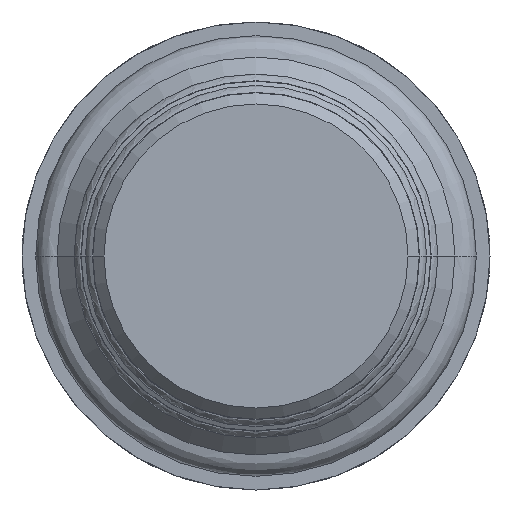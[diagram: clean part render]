
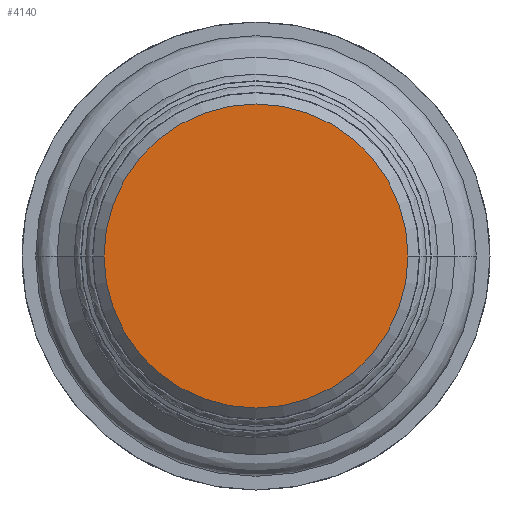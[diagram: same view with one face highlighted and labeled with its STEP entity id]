
A CAD part, front view. The second image highlights one B-rep face of the part: STEP entity #4140.
In plain terms, the highlighted planar face has unit normal (0, -1, 0).
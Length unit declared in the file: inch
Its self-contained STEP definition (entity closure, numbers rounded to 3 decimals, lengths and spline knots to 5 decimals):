
#1166=CARTESIAN_POINT('',(0.,-2.787,0.));
#1167=DIRECTION('',(0.,1.,0.));
#1168=DIRECTION('',(-1.,0.,0.));
#1169=AXIS2_PLACEMENT_3D('',#1166,#1167,#1168);
#1184=CARTESIAN_POINT('',(0.,-2.787,0.));
#1185=DIRECTION('',(0.,-1.,0.));
#1186=DIRECTION('',(-1.,0.,0.));
#1187=AXIS2_PLACEMENT_3D('',#1184,#1185,#1186);
#1955=CARTESIAN_POINT('',(-0.406,-2.787,0.));
#1956=CARTESIAN_POINT('',(0.406,-2.787,0.));
#1957=VERTEX_POINT('',#1955);
#1958=VERTEX_POINT('',#1956);
#4130=CARTESIAN_POINT('',(0.,-2.787,0.));
#4131=DIRECTION('',(0.,1.,0.));
#4132=DIRECTION('',(1.,0.,0.));
#4133=AXIS2_PLACEMENT_3D('',#4130,#4131,#4132);
#4134=PLANE('',#4133);
#4136=ORIENTED_EDGE('',*,*,#4135,.F.);
#4137=ORIENTED_EDGE('',*,*,#4120,.T.);
#4138=EDGE_LOOP('',(#4136,#4137));
#4139=FACE_OUTER_BOUND('',#4138,.F.);
#4140=ADVANCED_FACE('',(#4139),#4134,.F.);
#1170=CIRCLE('',#1169,0.406);
#1188=CIRCLE('',#1187,0.406);
#4120=EDGE_CURVE('',#1957,#1958,#1170,.T.);
#4135=EDGE_CURVE('',#1957,#1958,#1188,.T.);
